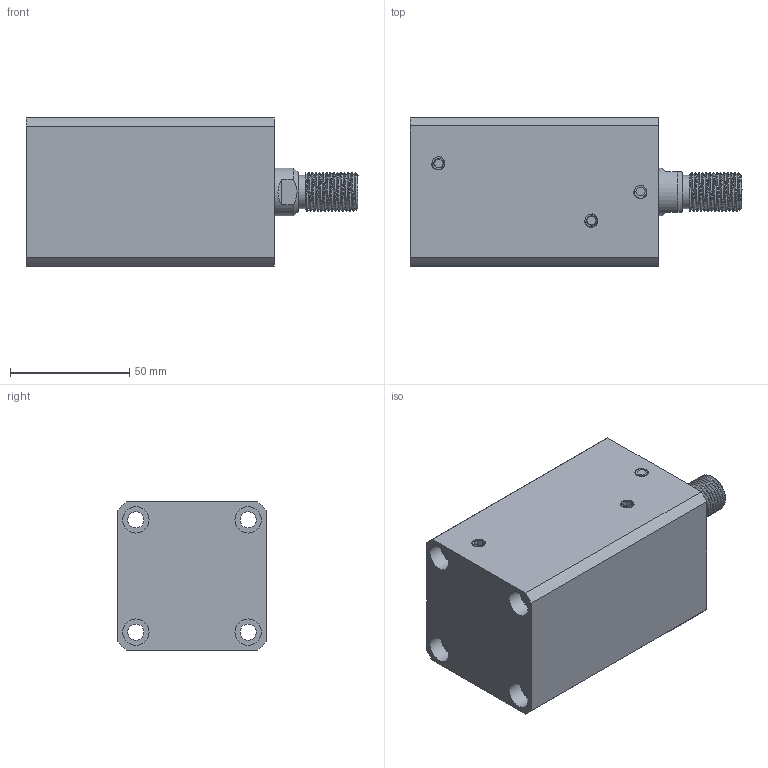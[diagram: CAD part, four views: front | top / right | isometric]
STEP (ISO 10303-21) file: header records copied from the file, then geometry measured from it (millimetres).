
FILE_DESCRIPTION(/* description */ (''),/* implementation_level */ '2;1');
FILE_NAME(/* name */ 'CHTB-sdma32x50w.stp',/* time_stamp */ '2022-04-29T17:11:33+08:00',/* author */ (''),/* organization */ (''),/* preprocessor_version */ 'ST-DEVELOPER v16.7',/* originating_system */ 'SIEMENS PLM Software NX 12.0',/* authorisation */ '');
FILE_SCHEMA (('AUTOMOTIVE_DESIGN { 1 0 10303 214 3 1 1 1 }'));
Length unit declared in the file: millimetre
Products named in the file (1): CHTB-sdma32x50w
Bounding box: 139 x 62 x 62 mm (x, y, z)
Volume: 358809.8 mm3; surface area: 75193.9 mm2
Topology: 6 solids, 6 shells, 587 faces, 1608 edges, 1083 vertices
Faces by surface type: plane 337, extrusion 115, cylinder 60, bspline 48, cone 15, torus 12
Full cylindrical faces by diameter (mm): 3 x2, 4 x4, 6.8 x4, 9 x2, 11 x8, 14 x1, 20 x2, 24.5 x1, 26 x2, 32 x4, 40 x1
Entity records: 37545 total; most frequent: CARTESIAN_POINT 21174, ORIENTED_EDGE 3074, DIRECTION 2128, EDGE_CURVE 1537, VERTEX_POINT 1062, VECTOR 1038, LINE 923, EDGE_LOOP 703
